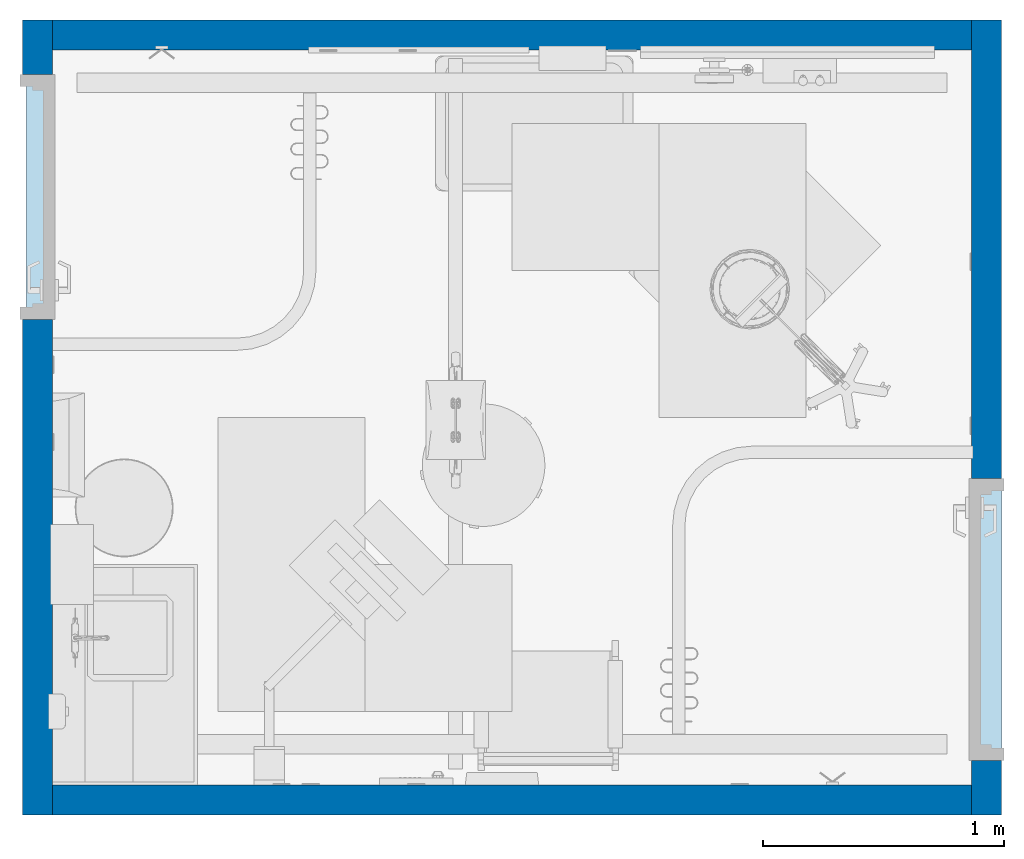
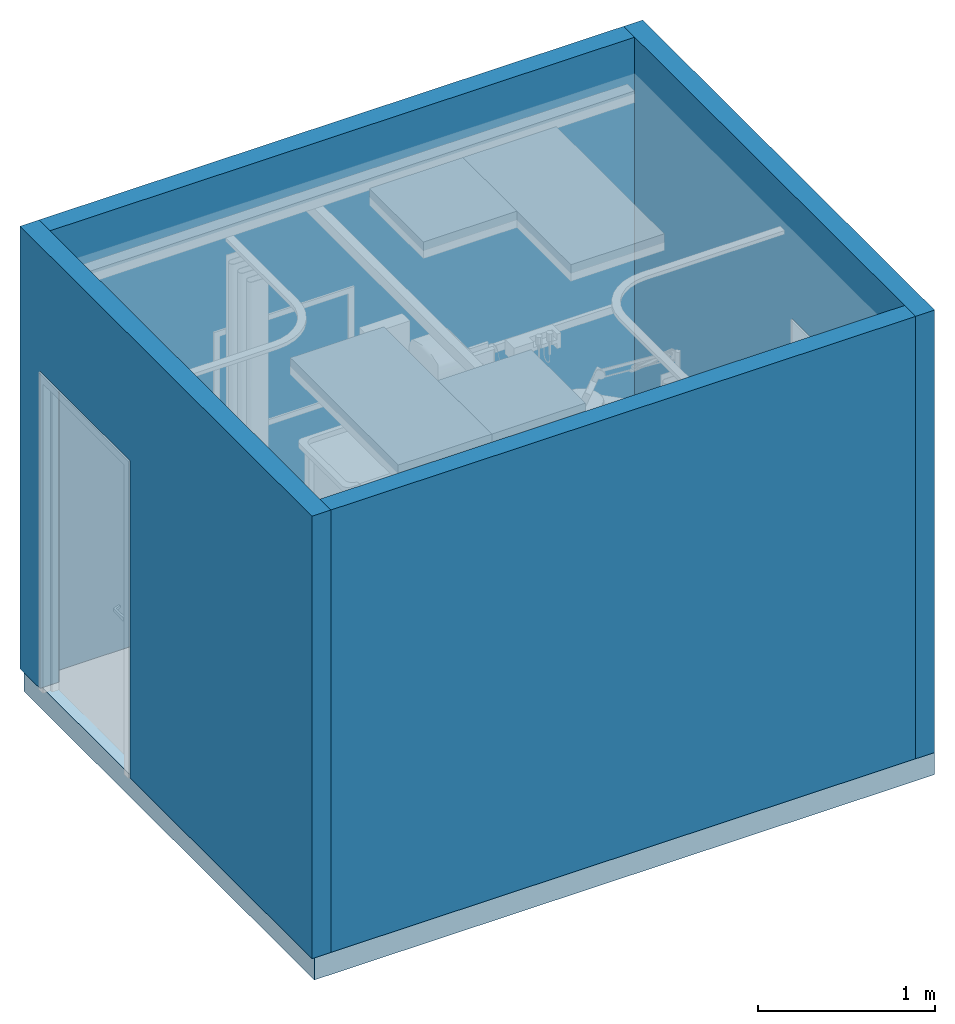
# One storey, part 1 of 8: 4 walls, 1 slab, 2 openings.
"""IFC2X3 building model written with IfcOpenShell, lengths in feet."""

from ifc_helpers import new_model, entity, si_unit, converted_unit, derived_unit, direction, frame, frame_2d, origin, place, context, subcontext, project, spatial, rectangle, extrude, material, layer, layer_set, layer_usage, type_object, element, save


model = new_model("IFC2X3")

# Units and contexts
model_context = context("Model", 3, precision=0.0001, world=origin(), true_north=direction((6.12303176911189e-17, 1.0)))
body_context = subcontext(model_context, "Body", "Model", "MODEL_VIEW")
ifc_project = project(units=[converted_unit("LENGTHUNIT", "FOOT", entity("IfcRatioMeasure", 0.3048), si_unit("LENGTHUNIT", "METRE"), dimensions=[1, 0, 0, 0, 0, 0, 0]), converted_unit("AREAUNIT", "SQUARE FOOT", entity("IfcRatioMeasure", 0.09290304), si_unit("AREAUNIT", "SQUARE_METRE"), dimensions=[2, 0, 0, 0, 0, 0, 0]), converted_unit("VOLUMEUNIT", "CUBIC FOOT", entity("IfcRatioMeasure", 0.028316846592), si_unit("VOLUMEUNIT", "CUBIC_METRE"), dimensions=[3, 0, 0, 0, 0, 0, 0]), converted_unit("PLANEANGLEUNIT", "DEGREE", entity("IfcRatioMeasure", 0.0174532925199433), si_unit("PLANEANGLEUNIT", "RADIAN"), dimensions=[0, 0, 0, 0, 0, 0, 0]), si_unit("MASSUNIT", "GRAM", prefix="KILO"), derived_unit("MASSDENSITYUNIT", [(si_unit("MASSUNIT", "GRAM", prefix="KILO"), 1), (si_unit("LENGTHUNIT", "METRE"), -3)]), si_unit("TIMEUNIT", "SECOND"), si_unit("FREQUENCYUNIT", "HERTZ"), si_unit("THERMODYNAMICTEMPERATUREUNIT", "DEGREE_CELSIUS"), derived_unit("THERMALTRANSMITTANCEUNIT", [(si_unit("MASSUNIT", "GRAM", prefix="KILO"), 1), (si_unit("THERMODYNAMICTEMPERATUREUNIT", "KELVIN"), -1), (si_unit("TIMEUNIT", "SECOND"), -3)]), derived_unit("VOLUMETRICFLOWRATEUNIT", [(si_unit("LENGTHUNIT", "METRE"), 3), (si_unit("TIMEUNIT", "SECOND"), -1)]), si_unit("ELECTRICCURRENTUNIT", "AMPERE"), si_unit("ELECTRICVOLTAGEUNIT", "VOLT"), si_unit("POWERUNIT", "WATT"), si_unit("FORCEUNIT", "NEWTON"), si_unit("ILLUMINANCEUNIT", "LUX"), si_unit("LUMINOUSFLUXUNIT", "LUMEN"), si_unit("LUMINOUSINTENSITYUNIT", "CANDELA"), derived_unit("USERDEFINED", [(si_unit("MASSUNIT", "GRAM", prefix="KILO"), -1), (si_unit("LENGTHUNIT", "METRE"), -2), (si_unit("TIMEUNIT", "SECOND"), 3), (si_unit("LUMINOUSFLUXUNIT", "LUMEN"), 1)]), derived_unit("LINEARVELOCITYUNIT", [(si_unit("LENGTHUNIT", "METRE"), 1), (si_unit("TIMEUNIT", "SECOND"), -1)]), si_unit("PRESSUREUNIT", "PASCAL"), derived_unit("USERDEFINED", [(si_unit("LENGTHUNIT", "METRE"), -2), (si_unit("MASSUNIT", "GRAM", prefix="KILO"), 1), (si_unit("TIMEUNIT", "SECOND"), -2)])], contexts=[model_context])

# Site, building, storey
site_placement = place(None, origin())
site = spatial("IfcSite", under=ifc_project, at=site_placement, Name="Default", CompositionType="ELEMENT")
building_placement = place(site_placement, origin())
building = spatial("IfcBuilding", under=site, at=building_placement, Name="OUTPATIENT / PACT CLINIC (Ch. 265)", CompositionType="ELEMENT")
storey_placement = place(building_placement, origin())
storey = spatial("IfcBuildingStorey", under=building, at=storey_placement, Name="DATUM", CompositionType="ELEMENT", Elevation=0.0)

# Slab
ifc_material = material(Name="<Unnamed>")
ifc_layer_1 = layer(ifc_material, 0.5)
ifc_layer_set_1 = layer_set([ifc_layer_1], Name="Floor:Generic - 6\"")
ifc_layer_usage_1 = layer_usage(ifc_layer_set_1, "AXIS3", "POSITIVE", 0.0)
slab_placement = place(storey_placement, origin())
element("IfcSlab", 1, at=slab_placement, inside=storey, material=ifc_layer_usage_1, Name="Floor:Generic - 6\"", ObjectType="Floor:Generic - 6\"", PredefinedType="FLOOR", context=body_context, shape_type="SweptSolid", body=[
    extrude(rectangle(XDim=10.7604166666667, YDim=13.2604166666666, at=frame_2d((0.0, -1.4210854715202e-14), x_axis=(1.0, 0.0))), frame((-201.309888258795, -855.902847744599, 0.0), z_axis=(0.0, 0.0, -1.0), x_axis=(0.0, 1.0, 0.0)), (0.0, 0.0, 1.0), 0.5),
])

# Wall, opening
ifc_layer_2 = layer(ifc_material, 0.40625)
ifc_layer_set_2 = layer_set([ifc_layer_2], Name="Basic Wall:Interior - 4 7/8\"")
ifc_layer_usage_2 = layer_usage(ifc_layer_set_2, "AXIS2", "POSITIVE", -0.203125)
wall_type = type_object("IfcWallType", Name="Basic Wall:Interior - 4 7/8\"", PredefinedType="STANDARD", material=ifc_layer_set_2)
wall_1_placement = place(storey_placement, frame((-207.789054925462, -850.470556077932, 0.0), z_axis=(0.0, 0.0, 1.0), x_axis=(0.0, -1.0, 0.0)))
wall_1 = element("IfcWallStandardCase", 2, at=wall_1_placement, inside=storey, type_object=wall_type, material=ifc_layer_usage_2, Name="Basic Wall:Interior - 4 7/8\"", ObjectType="Basic Wall:Interior - 4 7/8\"", context=body_context, shape_type="SweptSolid", body=[
    extrude(rectangle(XDim=10.8125, YDim=0.40625, at=frame_2d((5.40625, 9.00668428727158e-15), x_axis=(-1.0, 0.0))), origin(), (0.0, 0.0, 1.0), 10.0),
])
opening_1_placement = place(wall_1_placement, frame((0.739583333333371, -0.203125, 0.0)))
element("IfcOpeningElement", 3, at=opening_1_placement, cuts=wall_1, Name="Single - Flush:36\" x 84\":1", ObjectType="Opening", context=body_context, shape_type="SweptSolid", body=[
    extrude(rectangle(XDim=3.33333333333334, YDim=7.16666666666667, at=frame_2d((3.58333333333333, 1.66666666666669), x_axis=(0.0, -1.0))), frame((0.0, 0.0, 0.0), z_axis=(0.0, 1.0, 0.0), x_axis=(0.0, 0.0, 1.0)), (0.0, 0.0, 1.0), 0.40625),
])

ifc_layer_usage_3 = layer_usage(ifc_layer_set_2, "AXIS2", "NEGATIVE", 0.203125)
wall_2_placement = place(storey_placement, frame((-194.882804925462, -850.470556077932, 0.0), z_axis=(0.0, 0.0, 1.0), x_axis=(0.0, -1.0, 0.0)))
wall_2 = element("IfcWallStandardCase", 4, at=wall_2_placement, inside=storey, type_object=wall_type, material=ifc_layer_usage_3, Name="Basic Wall:Interior - 4 7/8\"", ObjectType="Basic Wall:Interior - 4 7/8\"", context=body_context, shape_type="SweptSolid", body=[
    extrude(rectangle(XDim=10.8125, YDim=0.40625, at=frame_2d((5.40625, 9.04831765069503e-15), x_axis=(-1.0, 0.0))), origin(), (0.0, 0.0, 1.0), 10.0),
])
opening_2_placement = place(wall_2_placement, frame((10.0729166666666, 0.203125, 0.0)))
element("IfcOpeningElement", 5, at=opening_2_placement, cuts=wall_2, Name="Single - Flush:42\" x 84\":1", ObjectType="Opening", context=body_context, shape_type="SweptSolid", body=[
    extrude(rectangle(XDim=3.83333333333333, YDim=7.16666666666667, at=frame_2d((3.58333333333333, 1.91666666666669), x_axis=(0.0, -1.0))), frame((0.0, 0.0, 0.0), z_axis=(0.0, -1.0, 0.0), x_axis=(0.0, 0.0, 1.0)), (0.0, 0.0, 1.0), 0.40625),
])

# Walls
ifc_layer_usage_4 = layer_usage(ifc_layer_set_2, "AXIS2", "NEGATIVE", 0.203125)
wall_3_placement = place(storey_placement, frame((-207.585929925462, -850.673681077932, 0.0)))
element("IfcWallStandardCase", 6, at=wall_3_placement, inside=storey, type_object=wall_type, material=ifc_layer_usage_4, Name="Basic Wall:Interior - 4 7/8\"", ObjectType="Basic Wall:Interior - 4 7/8\"", context=body_context, shape_type="SweptSolid", body=[
    extrude(rectangle(XDim=12.5, YDim=0.40625, at=frame_2d((6.25, 0.0), x_axis=(-1.0, 0.0))), origin(), (0.0, 0.0, 1.0), 10.0),
])
ifc_layer_usage_5 = layer_usage(ifc_layer_set_2, "AXIS2", "POSITIVE", -0.203125)
wall_4_placement = place(storey_placement, frame((-207.585929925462, -861.079931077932, 0.0)))
element("IfcWallStandardCase", 7, at=wall_4_placement, inside=storey, type_object=wall_type, material=ifc_layer_usage_5, Name="Basic Wall:Interior - 4 7/8\"", ObjectType="Basic Wall:Interior - 4 7/8\"", context=body_context, shape_type="SweptSolid", body=[
    extrude(rectangle(XDim=12.5, YDim=0.40625, at=frame_2d((6.25, 2.02060590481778e-14), x_axis=(-1.0, 0.0))), origin(), (0.0, 0.0, 1.0), 10.0),
])

save(model, "model.ifc")
